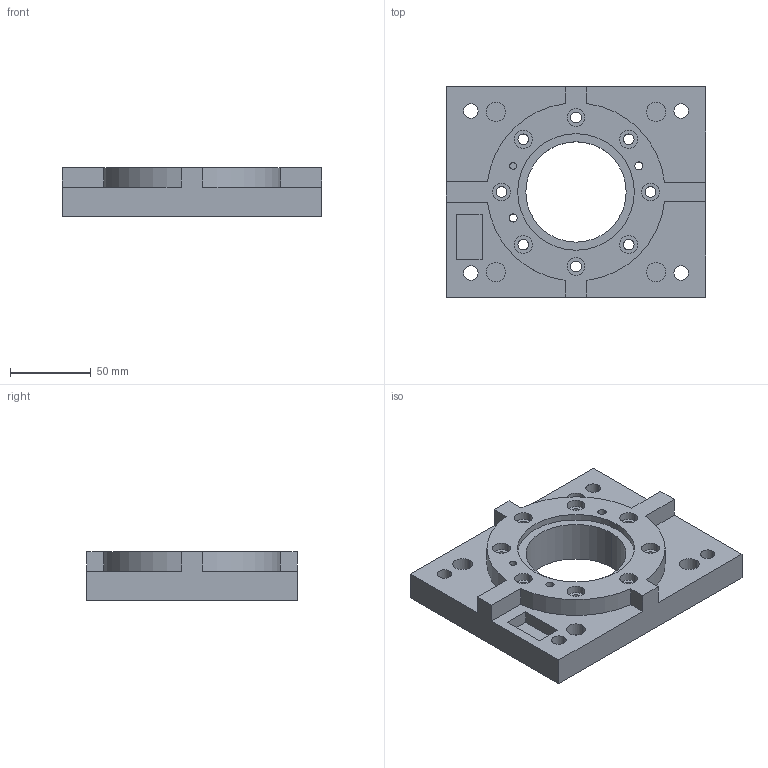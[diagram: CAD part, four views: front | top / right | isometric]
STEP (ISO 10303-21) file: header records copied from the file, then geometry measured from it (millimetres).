
FILE_DESCRIPTION (( 'STEP AP203' ), '1' );
FILE_NAME ('servo_reducer_bracket_srb160.step', '2026-08-12T08:39:08', ( '' ), ( '' ), 'SwSTEP 2.0', 'SolidWorks 2026', '' );
FILE_SCHEMA (( 'CONFIG_CONTROL_DESIGN' ));
Length unit declared in the file: millimetre
Products named in the file (1): servo_reducer_bracket_srb160
Bounding box: 160 x 130 x 30 mm (x, y, z)
Volume: 380575.4 mm3; surface area: 67194.2 mm2
Topology: 1 solids, 1 shells, 99 faces, 246 edges, 164 vertices
Faces by surface type: cylinder 62, plane 37
Entity records: 3141 total; most frequent: DIRECTION 570, CARTESIAN_POINT 510, ORIENTED_EDGE 492, EDGE_CURVE 246, AXIS2_PLACEMENT_3D 224, VERTEX_POINT 164, EDGE_LOOP 144, CIRCLE 124
